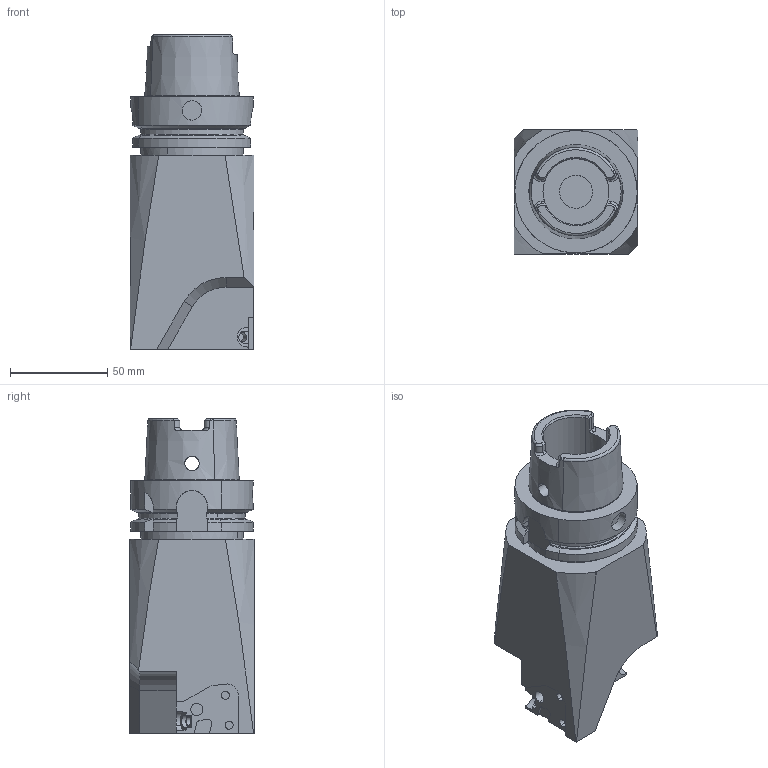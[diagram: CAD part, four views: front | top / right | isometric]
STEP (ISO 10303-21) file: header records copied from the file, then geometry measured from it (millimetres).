
FILE_DESCRIPTION(('CATIA V5 STEP','CAx-IF Rec.Pracs.--- Model Styling and Organization---1.2---2011-12-15'),'2;1');
FILE_NAME('I:\isr\design\admin8\users\raheeb_a\2801382 D.stp','2015-04-14T07:27:08+00:00',('none'),('none'),'CATIA Version 5 Release 21 SP 5 (IN-10)','CATIA V5 STEP AP214','none');
FILE_SCHEMA(('AUTOMOTIVE_DESIGN { 1 0 10303 214 1 1 1 1 }'));
Length unit declared in the file: millimetre
Products named in the file (1): HSK A63WH-MAHDOR
Bounding box: 63.8 x 64 x 162 mm (x, y, z)
Volume: 431032.6 mm3; surface area: 50311.4 mm2
Topology: 1 solids, 1 shells, 229 faces, 592 edges, 382 vertices
Faces by surface type: plane 99, cylinder 78, cone 28, torus 20, extrusion 4
Entity records: 7143 total; most frequent: CARTESIAN_POINT 2024, ORIENTED_EDGE 1184, DIRECTION 807, EDGE_CURVE 592, VERTEX_POINT 382, AXIS2_PLACEMENT_3D 366, VECTOR 277, LINE 273
